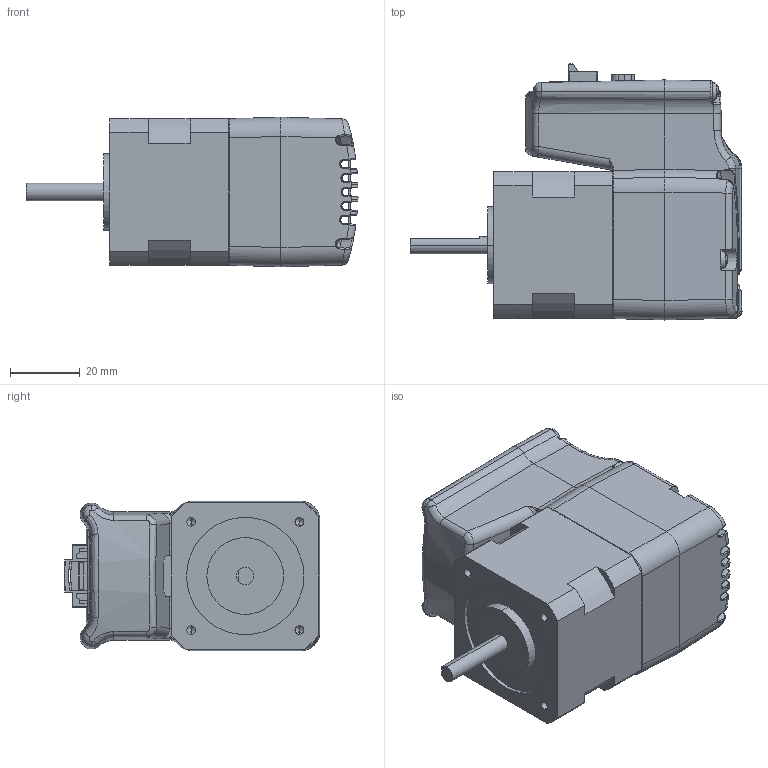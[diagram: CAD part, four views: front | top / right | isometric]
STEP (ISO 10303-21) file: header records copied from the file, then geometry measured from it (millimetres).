
FILE_DESCRIPTION (( 'STEP AP203' ), '1' );
FILE_NAME ('P26-MO-042-01-R00.STEP', '2015-04-15T06:26:19', ( '' ), ( '' ), 'SwSTEP 2.0', 'SolidWorks 2013', '' );
FILE_SCHEMA (( 'CONFIG_CONTROL_DESIGN' ));
Length unit declared in the file: millimetre
Products named in the file (20): 瞪錳薄樓醴喀攪-2; 匙飘况农 ID 钎矫 棺 惑怕 钎矫; 瞪錳薄樓醴喀攪-3; M25-MO-042-01-R00(BM-42S-BT-01)_湀_; 烹脚加档 汲沥 胶困摹; 瞪錳薄樓醴喀攪-4; M16-EC-042-01-R00; round cross head screw_ks_KS 1023 RC - M3 x 20-N; 瞪錳薄樓醴喀攪-5; M15-EC-042-02-R00; P26-MO-042-01-R00; RS-232C 鱔褐醴喀攪; M26-EC-042-01-R00; ﾆﾞｽｺ ﾀﾔｷﾂ ｹ貎ﾄ ｼｳﾁ､ ｽｺﾀｧﾄ｡-1; M15-EC-042-05-R00; ﾆﾞｽｺ ﾀﾔｷﾂ ｹ貎ﾄ ｼｳﾁ､ ｽｺﾀｧﾄ｡-2; ﾀﾔﾃ箙ﾂ ﾁ｢ｼﾓ ﾄｿｳﾘﾅﾍ; 蝶嬪纂-1; 瞪錳薄樓醴喀攪-1; 蝶嬪纂-2
Assembly tree (23 placements, depth 2):
  P26-MO-042-01-R00
    M25-MO-042-01-R00(BM-42S-BT-01)_湀_
    M16-EC-042-01-R00
    M15-EC-042-02-R00
    M26-EC-042-01-R00
    M15-EC-042-05-R00
    ﾀﾔﾃ箙ﾂ ﾁ｢ｼﾓ ﾄｿｳﾘﾅﾍ
    瞪錳薄樓醴喀攪-1
    瞪錳薄樓醴喀攪-2
    瞪錳薄樓醴喀攪-3
    瞪錳薄樓醴喀攪-4
    瞪錳薄樓醴喀攪-5
    RS-232C 鱔褐醴喀攪  x2
    ﾆﾞｽｺ ﾀﾔｷﾂ ｹ貎ﾄ ｼｳﾁ､ ｽｺﾀｧﾄ｡-1
    ﾆﾞｽｺ ﾀﾔｷﾂ ｹ貎ﾄ ｼｳﾁ､ ｽｺﾀｧﾄ｡-2
    蝶嬪纂-1
    蝶嬪纂-2
    匙飘况农 ID 钎矫 棺 惑怕 钎矫
    烹脚加档 汲沥 胶困摹
    round cross head screw_ks_KS 1023 RC - M3 x 20-N  x4
Bounding box: 95.09 x 73.3 x 42.8 mm (x, y, z)
Volume: 97475.8 mm3; surface area: 48449.2 mm2
Topology: 21 solids, 23 shells, 2287 faces, 5969 edges, 3736 vertices
Faces by surface type: plane 1151, cylinder 659, bspline 308, cone 85, torus 44, sphere 40
Entity records: 97106 total; most frequent: CARTESIAN_POINT 48493, ORIENTED_EDGE 10668, DIRECTION 7888, EDGE_CURVE 5353, VERTEX_POINT 3390, VECTOR 2896, LINE 2896, AXIS2_PLACEMENT_3D 2496
